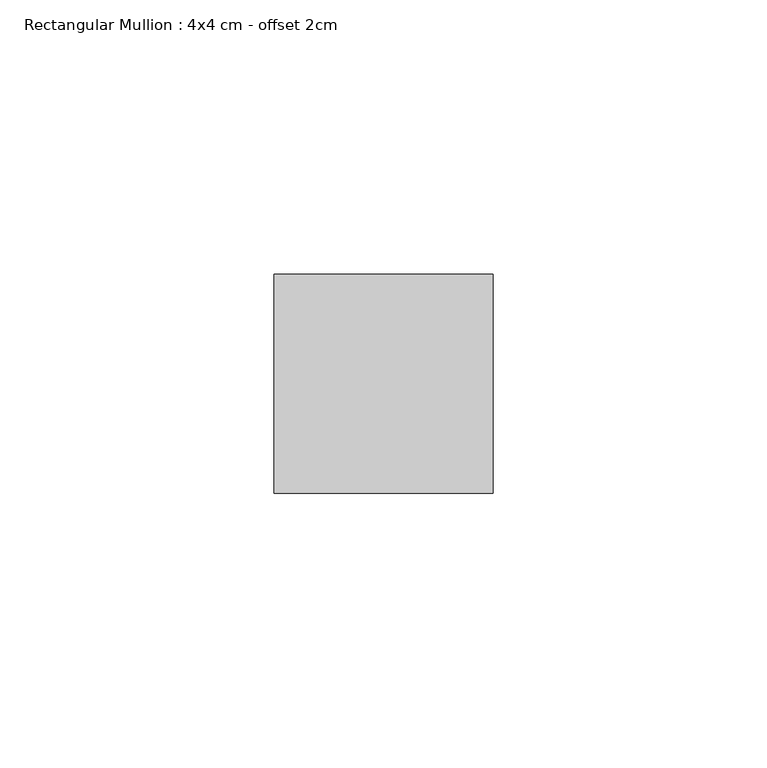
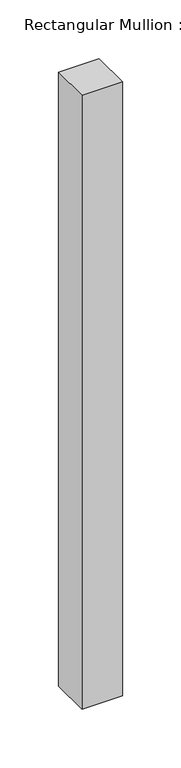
"""IFC4 building model written with IfcOpenShell, lengths in millimetres: member geometry, Rectangular Mullion : 4x4 cm - offset 2cm."""

from ifc_helpers import new_model, si_unit, frame, origin, place, context, project, spatial, polyline, outline, extrude, source, transform, mapped, element, save


def rectangular_mullion_4x4_cm_offset_2cm_62779054(model_context):
    return source(origin(), model_context, "Body", "SweptSolid", [
        extrude(outline(polyline([(0.0, 40.0), (0.0, 0.0), (-40.0, 0.0), (-40.0, 40.0), (0.0, 40.0)])), frame((0.0, 0.0, -640.0000003), z_axis=(0.0, 0.0, 1.0), x_axis=(1.0, 0.0, 0.0)), (0.0, 0.0, 1.0), 640.0000003),
    ])


if __name__ == "__main__":
    model = new_model("IFC4")
    model_context = context("Model", 3, world=origin())
    ifc_project = project(units=[si_unit("LENGTHUNIT", "METRE", prefix="MILLI")], contexts=[model_context])
    site = spatial("IfcSite", under=ifc_project)
    building = spatial("IfcBuilding", under=site)
    placement = place(None, origin())
    rectangular_mullion_4x4_cm_offset_2cm_shape = rectangular_mullion_4x4_cm_offset_2cm_62779054(model_context)
    element("IfcMember", 1, ObjectType="Rectangular Mullion : 4x4 cm - offset 2cm", at=placement, inside=building, context=model_context, shape_type="MappedRepresentation", body=[
        mapped(rectangular_mullion_4x4_cm_offset_2cm_shape, transform((0.0, 0.0, 0.0), x_axis=(1.0, 0.0, 0.0), y_axis=(0.0, 1.0, 0.0), z_axis=(0.0, 0.0, 1.0))),
    ])
    save(model, "model.ifc")
